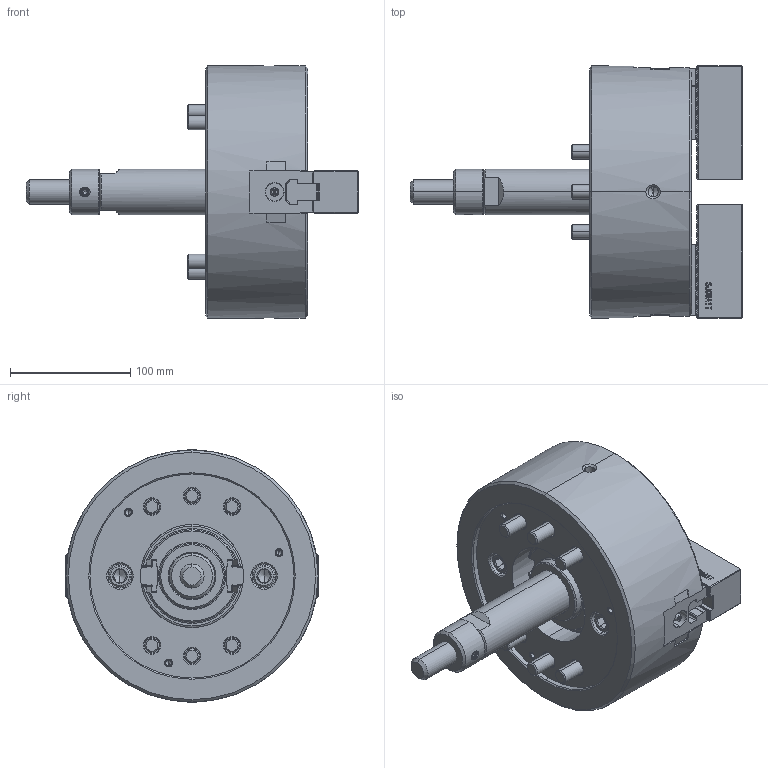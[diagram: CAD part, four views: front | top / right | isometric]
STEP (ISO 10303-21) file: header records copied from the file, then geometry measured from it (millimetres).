
FILE_DESCRIPTION (( 'STEP AP214' ), '1' );
FILE_NAME ('DT1_NLT08_OUTSIDE_VIEW_HCL.STEP', '2026-03-23T04:19:10', ( '' ), ( '' ), 'SwSTEP 2.0', 'SolidWorks 2022', '' );
FILE_SCHEMA (( 'AUTOMOTIVE_DESIGN' ));
Length unit declared in the file: millimetre
Products named in the file (11): DT1_NLT08_DN^DT1_NLT08; Copy of 61P310518^DT1_NLT08; DT1_NLT08_M5x12^DT1_NLT08; DT1_NLT08_OUTSIDE_VIEW_HCL; DT1_NLT08_M12x35^DT1_NLT08; DT1_NLT08_M12x85^DT1_NLT08; DT1_NLT08_TNUT^DT1_NLT08; DT1_NLT08_SOFTJAW^DT1_NLT08; DT1_NLT08_BASE^DT1_NLT08; DT1_NLT08_DRAWSCREW^DT1_NLT08; DT1_NLT08_COVER^DT1_NLT08
Assembly tree (23 placements, depth 2):
  DT1_NLT08_OUTSIDE_VIEW_HCL
    DT1_NLT08_SOFTJAW^DT1_NLT08  x2
    DT1_NLT08_TNUT^DT1_NLT08  x2
    DT1_NLT08_COVER^DT1_NLT08
    DT1_NLT08_DRAWSCREW^DT1_NLT08
    Copy of 61P310518^DT1_NLT08
    DT1_NLT08_DN^DT1_NLT08
    DT1_NLT08_BASE^DT1_NLT08
    DT1_NLT08_M12x85^DT1_NLT08  x6
    DT1_NLT08_M12x35^DT1_NLT08  x4
    DT1_NLT08_M5x12^DT1_NLT08  x4
Bounding box: 276.5 x 210.08 x 210 mm (x, y, z)
Volume: 3033050.8 mm3; surface area: 348962.6 mm2
Topology: 23 solids, 23 shells, 3811 faces, 10695 edges, 6983 vertices
Faces by surface type: plane 2180, cylinder 931, cone 376, bspline 269, torus 51, sphere 4
Entity records: 96348 total; most frequent: CARTESIAN_POINT 29372, ORIENTED_EDGE 15270, DIRECTION 11783, EDGE_CURVE 7635, VECTOR 5173, LINE 5173, VERTEX_POINT 5002, AXIS2_PLACEMENT_3D 3305
